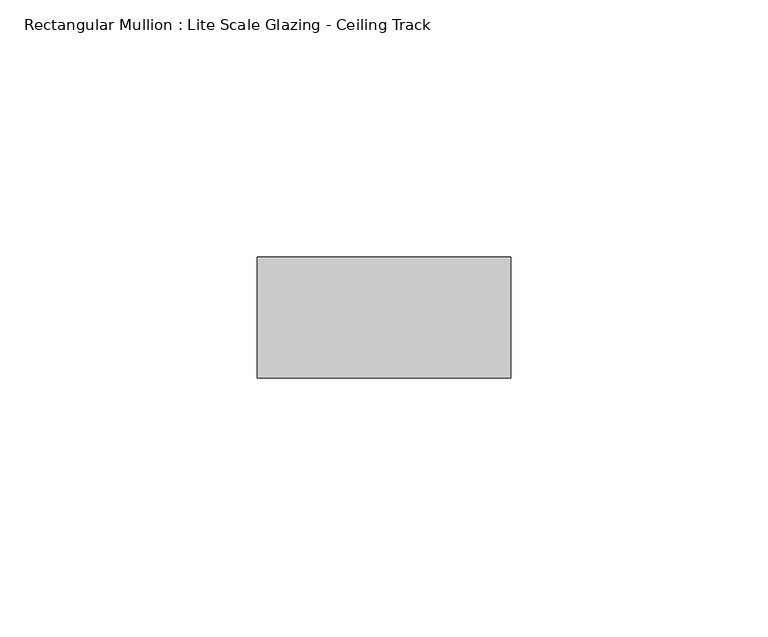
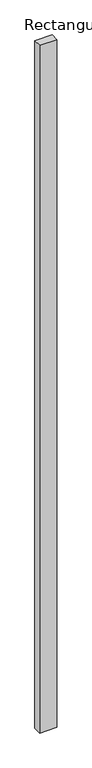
"""IFC4 building model written with IfcOpenShell, lengths in millimetres: member geometry, Rectangular Mullion : Lite Scale Glazing - Ceiling Track."""

from ifc_helpers import new_model, si_unit, frame, origin, place, context, project, spatial, polyline, outline, extrude, source, transform, mapped, element, save


def rectangular_mullion_lite_scale_glazing_ceiling_track_e914e820(model_context):
    return source(origin(), model_context, "Body", "SweptSolid", [
        extrude(outline(polyline([(-49.276, -11.7474999), (-49.276, 11.7474999), (0.0, 11.7474999), (0.0, -11.7474999), (-49.276, -11.7474999)])), frame((0.0, 0.0, -2082.8), z_axis=(0.0, 0.0, 1.0), x_axis=(1.0, 0.0, 0.0)), (0.0, 0.0, 1.0), 2082.8),
    ])


if __name__ == "__main__":
    model = new_model("IFC4")
    model_context = context("Model", 3, world=origin())
    ifc_project = project(units=[si_unit("LENGTHUNIT", "METRE", prefix="MILLI")], contexts=[model_context])
    site = spatial("IfcSite", under=ifc_project)
    building = spatial("IfcBuilding", under=site)
    placement = place(None, origin())
    rectangular_mullion_lite_scale_glazing_ceiling_track_shape = rectangular_mullion_lite_scale_glazing_ceiling_track_e914e820(model_context)
    element("IfcMember", 1, ObjectType="Rectangular Mullion : Lite Scale Glazing - Ceiling Track", at=placement, inside=building, context=model_context, shape_type="MappedRepresentation", body=[
        mapped(rectangular_mullion_lite_scale_glazing_ceiling_track_shape, transform((0.0, 0.0, 0.0), x_axis=(1.0, 0.0, 0.0), y_axis=(0.0, 1.0, 0.0), z_axis=(0.0, 0.0, 1.0))),
    ])
    save(model, "model.ifc")
